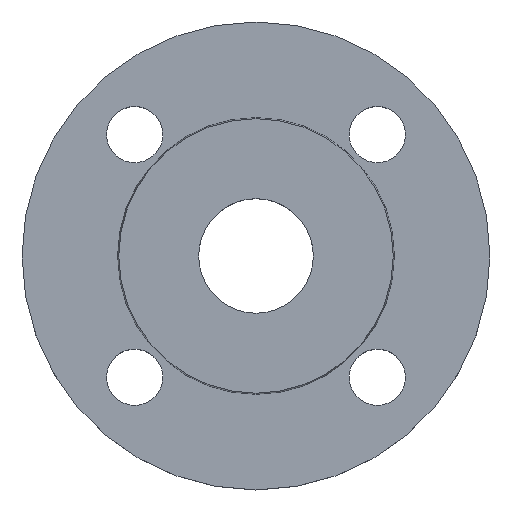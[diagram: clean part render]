
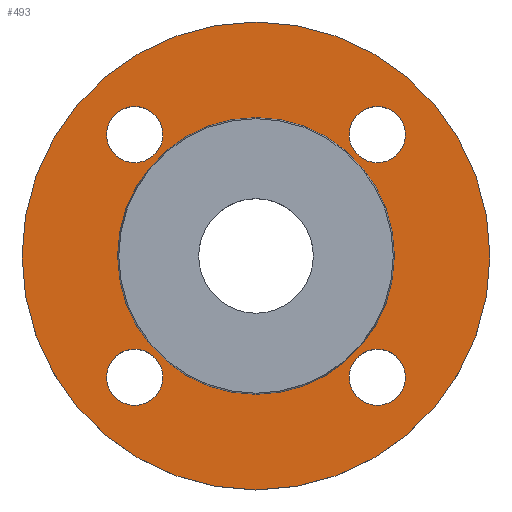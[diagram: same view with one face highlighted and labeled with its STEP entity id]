
A CAD part, top view. The second image highlights one B-rep face of the part: STEP entity #493.
In plain terms, the highlighted planar face has unit normal (0, 0, 1).
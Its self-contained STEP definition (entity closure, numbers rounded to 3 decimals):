
#14 = CIRCLE ( 'NONE', #15, 44.353 ) ;
#15 = AXIS2_PLACEMENT_3D ( 'NONE', #675, #676, #677 ) ;
#19 = AXIS2_PLACEMENT_3D ( 'NONE', #693, #694, #697 ) ;
#36 = CIRCLE ( 'NONE', #37, 9. ) ;
#37 = AXIS2_PLACEMENT_3D ( 'NONE', #231, #232, #233 ) ;
#41 = AXIS2_PLACEMENT_3D ( 'NONE', #685, #686, #687 ) ;
#93 = DIRECTION ( 'NONE',  ( 0., 0., 1. ) ) ;
#96 = CARTESIAN_POINT ( 'NONE',  ( 44.353, 0., -2. ) ) ;
#97 = PLANE ( 'NONE',  #356 ) ;
#98 = FACE_OUTER_BOUND ( 'NONE', #570, .T. ) ;
#112 = DIRECTION ( 'NONE',  ( 1., 0., 0. ) ) ;
#114 = CARTESIAN_POINT ( 'NONE',  ( 47.891, 38.891, -2. ) ) ;
#115 = CARTESIAN_POINT ( 'NONE',  ( 38.891, -38.891, -2. ) ) ;
#119 = CARTESIAN_POINT ( 'NONE',  ( -29.891, 38.891, -2. ) ) ;
#125 = CARTESIAN_POINT ( 'NONE',  ( -29.891, -38.891, -2. ) ) ;
#130 = EDGE_CURVE ( 'NONE', #552, #187, #240, .T. ) ;
#133 = CARTESIAN_POINT ( 'NONE',  ( 47.891, -38.891, -2. ) ) ;
#134 = DIRECTION ( 'NONE',  ( 0., 0., -1. ) ) ;
#152 = CARTESIAN_POINT ( 'NONE',  ( -44.353, 0., -2. ) ) ;
#154 = CARTESIAN_POINT ( 'NONE',  ( -47.891, -38.891, -2. ) ) ;
#184 = CIRCLE ( 'NONE', #204, 9. ) ;
#186 = EDGE_CURVE ( 'NONE', #211, #540, #14, .T. ) ;
#187 = VERTEX_POINT ( 'NONE', #678 ) ;
#191 = ORIENTED_EDGE ( 'NONE', *, *, #394, .T. ) ;
#195 = ORIENTED_EDGE ( 'NONE', *, *, #382, .T. ) ;
#196 = ORIENTED_EDGE ( 'NONE', *, *, #412, .T. ) ;
#198 = VERTEX_POINT ( 'NONE', #682 ) ;
#204 = AXIS2_PLACEMENT_3D ( 'NONE', #115, #134, #381 ) ;
#205 = EDGE_CURVE ( 'NONE', #187, #552, #389, .T. ) ;
#211 = VERTEX_POINT ( 'NONE', #688 ) ;
#212 = VERTEX_POINT ( 'NONE', #689 ) ;
#216 = EDGE_CURVE ( 'NONE', #212, #413, #353, .T. ) ;
#231 = CARTESIAN_POINT ( 'NONE',  ( 38.891, -38.891, -2. ) ) ;
#232 = DIRECTION ( 'NONE',  ( 0., 0., -1. ) ) ;
#233 = DIRECTION ( 'NONE',  ( 1., 0., 0. ) ) ;
#240 = CIRCLE ( 'NONE', #341, 9. ) ;
#255 = CARTESIAN_POINT ( 'NONE',  ( -47.891, 38.891, -2. ) ) ;
#256 = CARTESIAN_POINT ( 'NONE',  ( -38.891, -38.891, -2. ) ) ;
#257 = DIRECTION ( 'NONE',  ( 0., 0., -1. ) ) ;
#260 = DIRECTION ( 'NONE',  ( 1., 0., 0. ) ) ;
#288 = EDGE_CURVE ( 'NONE', #198, #566, #36, .T. ) ;
#297 = CARTESIAN_POINT ( 'NONE',  ( -38.891, 38.891, -2. ) ) ;
#299 = DIRECTION ( 'NONE',  ( 0., 0., -1. ) ) ;
#300 = DIRECTION ( 'NONE',  ( 1., 0., 0. ) ) ;
#307 = CARTESIAN_POINT ( 'NONE',  ( -38.891, -38.891, -2. ) ) ;
#308 = DIRECTION ( 'NONE',  ( 0., 0., -1. ) ) ;
#309 = DIRECTION ( 'NONE',  ( 1., 0., 0. ) ) ;
#317 = CARTESIAN_POINT ( 'NONE',  ( -38.891, 38.891, -2. ) ) ;
#318 = DIRECTION ( 'NONE',  ( 0., 0., -1. ) ) ;
#320 = CIRCLE ( 'NONE', #324, 44.353 ) ;
#321 = DIRECTION ( 'NONE',  ( 1., 0., 0. ) ) ;
#322 = CARTESIAN_POINT ( 'NONE',  ( 75., 0., -2. ) ) ;
#324 = AXIS2_PLACEMENT_3D ( 'NONE', #333, #335, #337 ) ;
#333 = CARTESIAN_POINT ( 'NONE',  ( 0., 0., -2. ) ) ;
#334 = CIRCLE ( 'NONE', #379, 75. ) ;
#335 = DIRECTION ( 'NONE',  ( 0., 0., -1. ) ) ;
#337 = DIRECTION ( 'NONE',  ( -1., 0., 0. ) ) ;
#339 = CARTESIAN_POINT ( 'NONE',  ( 0., 0., -2. ) ) ;
#340 = VERTEX_POINT ( 'NONE', #255 ) ;
#341 = AXIS2_PLACEMENT_3D ( 'NONE', #644, #645, #646 ) ;
#343 = DIRECTION ( 'NONE',  ( 0., 0., -1. ) ) ;
#344 = DIRECTION ( 'NONE',  ( -1., 0., 0. ) ) ;
#345 = EDGE_CURVE ( 'NONE', #565, #544, #360, .T. ) ;
#349 = FACE_BOUND ( 'NONE', #582, .T. ) ;
#353 = CIRCLE ( 'NONE', #19, 75. ) ;
#356 = AXIS2_PLACEMENT_3D ( 'NONE', #96, #93, #112 ) ;
#359 = AXIS2_PLACEMENT_3D ( 'NONE', #256, #257, #260 ) ;
#360 = CIRCLE ( 'NONE', #359, 9. ) ;
#364 = FACE_BOUND ( 'NONE', #580, .T. ) ;
#366 = FACE_BOUND ( 'NONE', #577, .T. ) ;
#367 = FACE_BOUND ( 'NONE', #564, .T. ) ;
#368 = FACE_BOUND ( 'NONE', #573, .T. ) ;
#379 = AXIS2_PLACEMENT_3D ( 'NONE', #339, #343, #344 ) ;
#381 = DIRECTION ( 'NONE',  ( 1., 0., 0. ) ) ;
#382 = EDGE_CURVE ( 'NONE', #553, #340, #467, .T. ) ;
#389 = CIRCLE ( 'NONE', #41, 9. ) ;
#394 = EDGE_CURVE ( 'NONE', #544, #565, #463, .T. ) ;
#412 = EDGE_CURVE ( 'NONE', #340, #553, #442, .T. ) ;
#413 = VERTEX_POINT ( 'NONE', #322 ) ;
#440 = AXIS2_PLACEMENT_3D ( 'NONE', #317, #318, #321 ) ;
#442 = CIRCLE ( 'NONE', #440, 9. ) ;
#446 = EDGE_CURVE ( 'NONE', #540, #211, #320, .T. ) ;
#447 = AXIS2_PLACEMENT_3D ( 'NONE', #307, #308, #309 ) ;
#455 = EDGE_CURVE ( 'NONE', #413, #212, #334, .T. ) ;
#458 = ORIENTED_EDGE ( 'NONE', *, *, #575, .T. ) ;
#459 = ORIENTED_EDGE ( 'NONE', *, *, #288, .T. ) ;
#460 = ORIENTED_EDGE ( 'NONE', *, *, #345, .T. ) ;
#462 = ORIENTED_EDGE ( 'NONE', *, *, #130, .T. ) ;
#463 = CIRCLE ( 'NONE', #447, 9. ) ;
#464 = ORIENTED_EDGE ( 'NONE', *, *, #205, .T. ) ;
#465 = AXIS2_PLACEMENT_3D ( 'NONE', #297, #299, #300 ) ;
#466 = ORIENTED_EDGE ( 'NONE', *, *, #446, .T. ) ;
#467 = CIRCLE ( 'NONE', #465, 9. ) ;
#468 = ORIENTED_EDGE ( 'NONE', *, *, #186, .T. ) ;
#469 = ORIENTED_EDGE ( 'NONE', *, *, #455, .F. ) ;
#471 = ORIENTED_EDGE ( 'NONE', *, *, #216, .F. ) ;
#493 = ADVANCED_FACE ( 'NONE', ( #349, #364, #366, #368, #367, #98 ), #97, .T. ) ;
#540 = VERTEX_POINT ( 'NONE', #152 ) ;
#544 = VERTEX_POINT ( 'NONE', #154 ) ;
#552 = VERTEX_POINT ( 'NONE', #114 ) ;
#553 = VERTEX_POINT ( 'NONE', #119 ) ;
#564 = EDGE_LOOP ( 'NONE', ( #466, #468 ) ) ;
#565 = VERTEX_POINT ( 'NONE', #125 ) ;
#566 = VERTEX_POINT ( 'NONE', #133 ) ;
#570 = EDGE_LOOP ( 'NONE', ( #469, #471 ) ) ;
#573 = EDGE_LOOP ( 'NONE', ( #462, #464 ) ) ;
#575 = EDGE_CURVE ( 'NONE', #566, #198, #184, .T. ) ;
#577 = EDGE_LOOP ( 'NONE', ( #195, #196 ) ) ;
#580 = EDGE_LOOP ( 'NONE', ( #460, #191 ) ) ;
#582 = EDGE_LOOP ( 'NONE', ( #458, #459 ) ) ;
#644 = CARTESIAN_POINT ( 'NONE',  ( 38.891, 38.891, -2. ) ) ;
#645 = DIRECTION ( 'NONE',  ( 0., 0., -1. ) ) ;
#646 = DIRECTION ( 'NONE',  ( 1., 0., 0. ) ) ;
#675 = CARTESIAN_POINT ( 'NONE',  ( 0., 0., -2. ) ) ;
#676 = DIRECTION ( 'NONE',  ( 0., 0., -1. ) ) ;
#677 = DIRECTION ( 'NONE',  ( -1., 0., 0. ) ) ;
#678 = CARTESIAN_POINT ( 'NONE',  ( 29.891, 38.891, -2. ) ) ;
#682 = CARTESIAN_POINT ( 'NONE',  ( 29.891, -38.891, -2. ) ) ;
#685 = CARTESIAN_POINT ( 'NONE',  ( 38.891, 38.891, -2. ) ) ;
#686 = DIRECTION ( 'NONE',  ( 0., 0., -1. ) ) ;
#687 = DIRECTION ( 'NONE',  ( 1., 0., 0. ) ) ;
#688 = CARTESIAN_POINT ( 'NONE',  ( 44.353, 0., -2. ) ) ;
#689 = CARTESIAN_POINT ( 'NONE',  ( -75., 0., -2. ) ) ;
#693 = CARTESIAN_POINT ( 'NONE',  ( 0., 0., -2. ) ) ;
#694 = DIRECTION ( 'NONE',  ( 0., 0., -1. ) ) ;
#697 = DIRECTION ( 'NONE',  ( -1., 0., 0. ) ) ;
